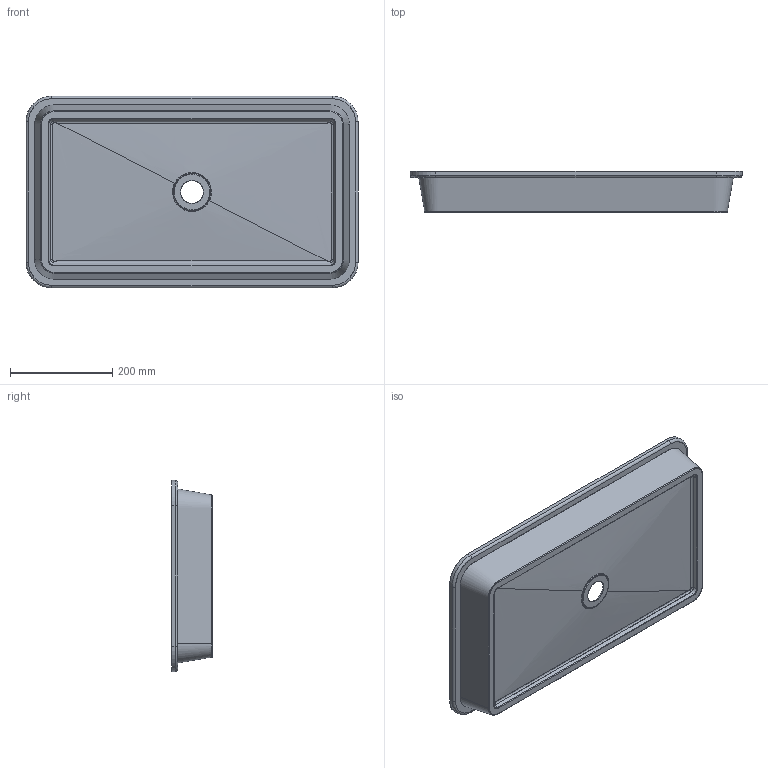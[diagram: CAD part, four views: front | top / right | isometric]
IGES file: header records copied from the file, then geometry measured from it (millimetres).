
Start section: SolidWorks IGES file using analytic representation for surfaces
Global section: file name: C:\Documents and Settings\Manuel\Ambiente de trabalho\Ficheiros para Biblioteca BIM\Toledo-3D\78868002.IGS; native system: SolidWorks 2012; preprocessor: SolidWorks 2012; author: Manuel; date: 201009.164834; units: millimetre
Bounding box: 650 x 79.95 x 375 mm (x, y, z)
Surface area: 695810.9 mm2 (no closed solid volume)
Topology: 0 solids, 0 shells, 76 faces, 1451 edges, 1451 vertices
Faces by surface type: bspline 56, revolution 20
